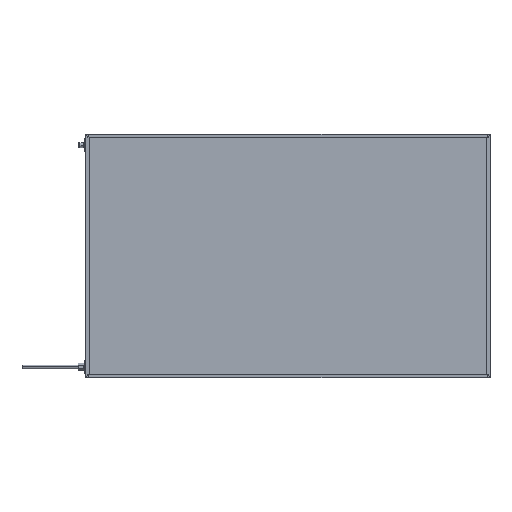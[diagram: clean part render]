
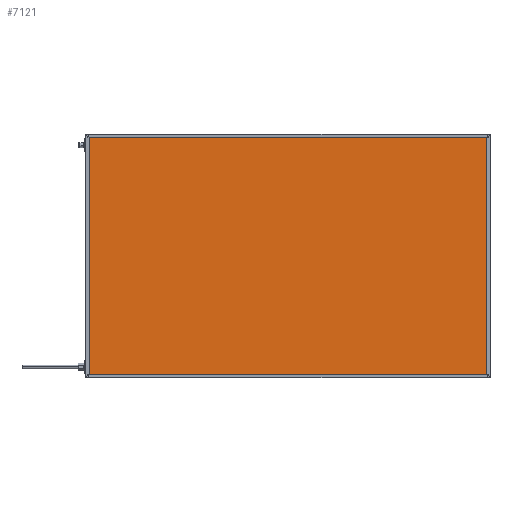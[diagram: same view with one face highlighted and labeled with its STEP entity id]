
A CAD part, top view. The second image highlights one B-rep face of the part: STEP entity #7121.
In plain terms, the highlighted planar face has unit normal (0, 0, 1).
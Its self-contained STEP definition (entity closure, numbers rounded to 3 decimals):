
#64 = VERTEX_POINT ( 'NONE', #3377 ) ;
#838 = ORIENTED_EDGE ( 'NONE', *, *, #14596, .T. ) ;
#1205 = VERTEX_POINT ( 'NONE', #6082 ) ;
#2094 = CARTESIAN_POINT ( 'NONE',  ( 996., 0., 41.85 ) ) ;
#2183 = EDGE_CURVE ( 'NONE', #10640, #11477, #8670, .T. ) ;
#2707 = FACE_OUTER_BOUND ( 'NONE', #9237, .T. ) ;
#2763 = VECTOR ( 'NONE', #9741, 1000. ) ;
#3077 = CARTESIAN_POINT ( 'NONE',  ( 4., 0., 41.85 ) ) ;
#3377 = CARTESIAN_POINT ( 'NONE',  ( 4., 596., 41.85 ) ) ;
#3410 = CARTESIAN_POINT ( 'NONE',  ( 4., 4., 41.85 ) ) ;
#4638 = DIRECTION ( 'NONE',  ( 0., 1., 0. ) ) ;
#4652 = CARTESIAN_POINT ( 'NONE',  ( 0., 4., 41.85 ) ) ;
#5608 = CARTESIAN_POINT ( 'NONE',  ( 0., 0., 41.85 ) ) ;
#5653 = DIRECTION ( 'NONE',  ( 1., 0., 0. ) ) ;
#6082 = CARTESIAN_POINT ( 'NONE',  ( 996., 596., 41.85 ) ) ;
#7066 = PLANE ( 'NONE',  #12922 ) ;
#7121 = ADVANCED_FACE ( 'NONE', ( #2707 ), #7066, .F. ) ;
#7167 = DIRECTION ( 'NONE',  ( 0., -1., 0. ) ) ;
#7505 = CARTESIAN_POINT ( 'NONE',  ( 996., 4., 41.85 ) ) ;
#8447 = LINE ( 'NONE', #3077, #11015 ) ;
#8529 = DIRECTION ( 'NONE',  ( 0., 0., -1. ) ) ;
#8670 = LINE ( 'NONE', #4652, #17237 ) ;
#8802 = EDGE_CURVE ( 'NONE', #1205, #64, #17780, .T. ) ;
#9194 = LINE ( 'NONE', #2094, #10117 ) ;
#9237 = EDGE_LOOP ( 'NONE', ( #838, #9708, #13612, #15181 ) ) ;
#9708 = ORIENTED_EDGE ( 'NONE', *, *, #8802, .T. ) ;
#9741 = DIRECTION ( 'NONE',  ( -1., 0., 0. ) ) ;
#9815 = DIRECTION ( 'NONE',  ( -1., 0., 0. ) ) ;
#10117 = VECTOR ( 'NONE', #4638, 1000. ) ;
#10640 = VERTEX_POINT ( 'NONE', #3410 ) ;
#11015 = VECTOR ( 'NONE', #7167, 1000. ) ;
#11477 = VERTEX_POINT ( 'NONE', #7505 ) ;
#12922 = AXIS2_PLACEMENT_3D ( 'NONE', #5608, #8529, #9815 ) ;
#13612 = ORIENTED_EDGE ( 'NONE', *, *, #14903, .T. ) ;
#14596 = EDGE_CURVE ( 'NONE', #11477, #1205, #9194, .T. ) ;
#14903 = EDGE_CURVE ( 'NONE', #64, #10640, #8447, .T. ) ;
#15181 = ORIENTED_EDGE ( 'NONE', *, *, #2183, .T. ) ;
#17237 = VECTOR ( 'NONE', #5653, 1000. ) ;
#17780 = LINE ( 'NONE', #18044, #2763 ) ;
#18044 = CARTESIAN_POINT ( 'NONE',  ( 0., 596., 41.85 ) ) ;
